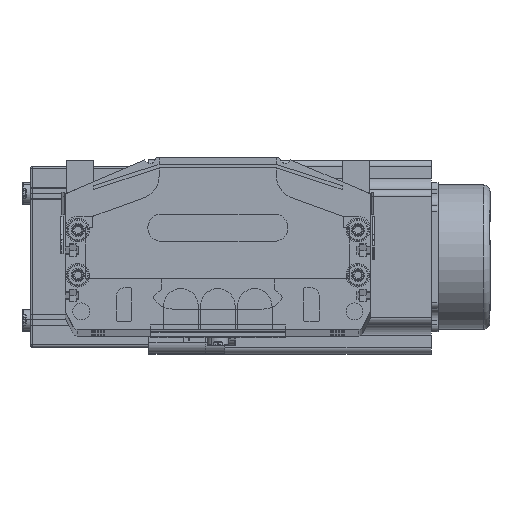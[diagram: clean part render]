
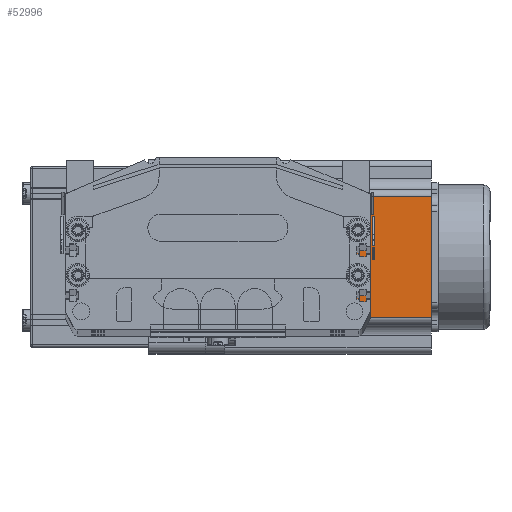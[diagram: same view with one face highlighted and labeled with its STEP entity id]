
A CAD part, top view. The second image highlights one B-rep face of the part: STEP entity #52996.
In plain terms, the highlighted planar face has unit normal (0, 0, 1) as drawn and (-1, 0, 0) by its records, which use the part's own axes.
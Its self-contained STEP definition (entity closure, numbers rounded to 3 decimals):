
#4577 = DIRECTION ( 'NONE',  ( 0., 0., -1. ) ) ;
#4578 = VECTOR ( 'NONE', #4577, 1000. ) ;
#4579 = CARTESIAN_POINT ( 'NONE',  ( 0., 69.74, 91.5 ) ) ;
#4580 = LINE ( 'NONE', #4579, #4578 ) ;
#52995 = VERTEX_POINT ( 'NONE', #67888 ) ;
#52996 = ADVANCED_FACE ( 'NONE', ( #68043 ), #68002, .F. ) ;
#52997 = VERTEX_POINT ( 'NONE', #67993 ) ;
#52998 = ORIENTED_EDGE ( 'NONE', *, *, #53101, .T. ) ;
#53064 = EDGE_CURVE ( 'NONE', #52997, #52995, #68018, .T. ) ;
#53075 = EDGE_LOOP ( 'NONE', ( #52998, #53107, #53231, #53235 ) ) ;
#53101 = EDGE_CURVE ( 'NONE', #53109, #52997, #68051, .T. ) ;
#53107 = ORIENTED_EDGE ( 'NONE', *, *, #53064, .T. ) ;
#53109 = VERTEX_POINT ( 'NONE', #67907 ) ;
#53111 = VERTEX_POINT ( 'NONE', #68053 ) ;
#53113 = EDGE_CURVE ( 'NONE', #53111, #52995, #67956, .T. ) ;
#53231 = ORIENTED_EDGE ( 'NONE', *, *, #53113, .F. ) ;
#53232 = EDGE_CURVE ( 'NONE', #53111, #53109, #4580, .T. ) ;
#53235 = ORIENTED_EDGE ( 'NONE', *, *, #53232, .T. ) ;
#67888 = CARTESIAN_POINT ( 'NONE',  ( 0., 16.16, 91.5 ) ) ;
#67907 = CARTESIAN_POINT ( 'NONE',  ( 0., 69.74, 0. ) ) ;
#67909 = DIRECTION ( 'NONE',  ( 0., -1., 0. ) ) ;
#67911 = VECTOR ( 'NONE', #67909, 1000. ) ;
#67912 = CARTESIAN_POINT ( 'NONE',  ( 0., 0., 0. ) ) ;
#67950 = DIRECTION ( 'NONE',  ( 0., 0., 1. ) ) ;
#67951 = VECTOR ( 'NONE', #67950, 1000. ) ;
#67956 = LINE ( 'NONE', #67960, #68056 ) ;
#67960 = CARTESIAN_POINT ( 'NONE',  ( 0., 0., 91.5 ) ) ;
#67977 = DIRECTION ( 'NONE',  ( 0., 0., -1. ) ) ;
#67993 = CARTESIAN_POINT ( 'NONE',  ( 0., 16.16, 0. ) ) ;
#67998 = DIRECTION ( 'NONE',  ( 1., 0., 0. ) ) ;
#67999 = CARTESIAN_POINT ( 'NONE',  ( 0., 0., 91.5 ) ) ;
#68002 = PLANE ( 'NONE',  #68042 ) ;
#68017 = CARTESIAN_POINT ( 'NONE',  ( 0., 16.16, 91.5 ) ) ;
#68018 = LINE ( 'NONE', #68017, #67951 ) ;
#68042 = AXIS2_PLACEMENT_3D ( 'NONE', #67999, #67998, #67977 ) ;
#68043 = FACE_OUTER_BOUND ( 'NONE', #53075, .T. ) ;
#68051 = LINE ( 'NONE', #67912, #67911 ) ;
#68053 = CARTESIAN_POINT ( 'NONE',  ( 0., 69.74, 91.5 ) ) ;
#68055 = DIRECTION ( 'NONE',  ( 0., -1., 0. ) ) ;
#68056 = VECTOR ( 'NONE', #68055, 1000. ) ;
